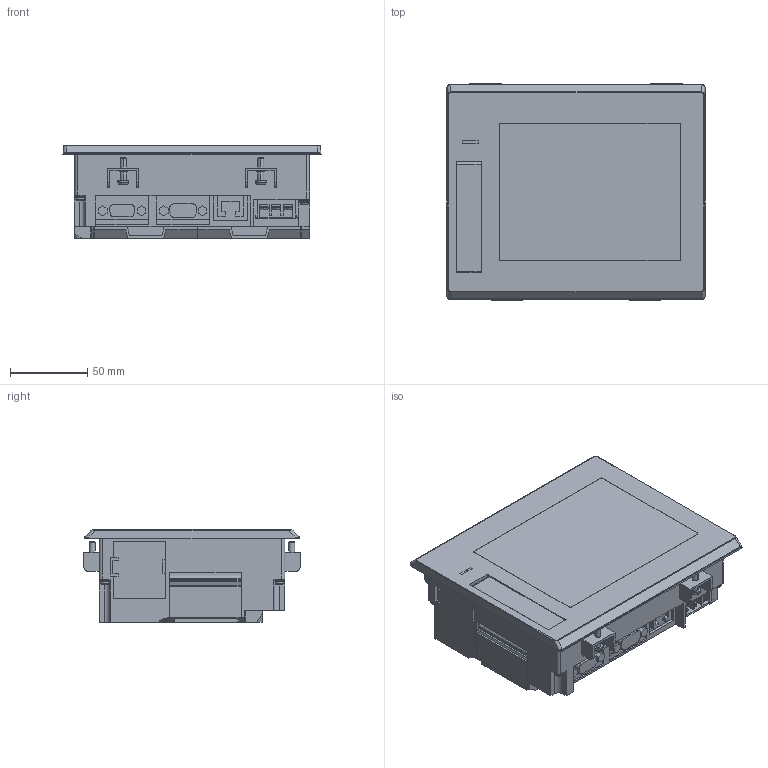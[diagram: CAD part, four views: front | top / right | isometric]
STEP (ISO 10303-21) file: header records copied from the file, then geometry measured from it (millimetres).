
FILE_DESCRIPTION((''),'2;1');
FILE_NAME('GT2705-VTBD_A_ASM','2015-03-25T',('QL11048'),(''),'PRO/ENGINEER BY PARAMETRIC TECHNOLOGY CORPORATION, 2014200','PRO/ENGINEER BY PARAMETRIC TECHNOLOGY CORPORATION, 2014200','');
FILE_SCHEMA(('CONFIG_CONTROL_DESIGN'));
Length unit declared in the file: millimetre
Products named in the file (5): GT2705-VTBD_01; COVER_1; COVER_1_1; TORITUKE_1; GT2705-VTBD_A_ASM
Assembly tree (8 placements, depth 2):
  GT2705-VTBD_A_ASM
    GT2705-VTBD_01
    COVER_1
    COVER_1_1  x2
    TORITUKE_1  x4
Bounding box: 167 x 140 x 60 mm (x, y, z)
Volume: 1005120.6 mm3; surface area: 123164 mm2
Topology: 8 solids, 8 shells, 584 faces, 1584 edges, 1056 vertices
Faces by surface type: plane 409, cylinder 102, cone 26, bspline 19, torus 16, sphere 12
Entity records: 16739 total; most frequent: CARTESIAN_POINT 4430, ORIENTED_EDGE 2616, DIRECTION 2388, EDGE_CURVE 1308, VECTOR 996, LINE 996, VERTEX_POINT 878, AXIS2_PLACEMENT_3D 696
